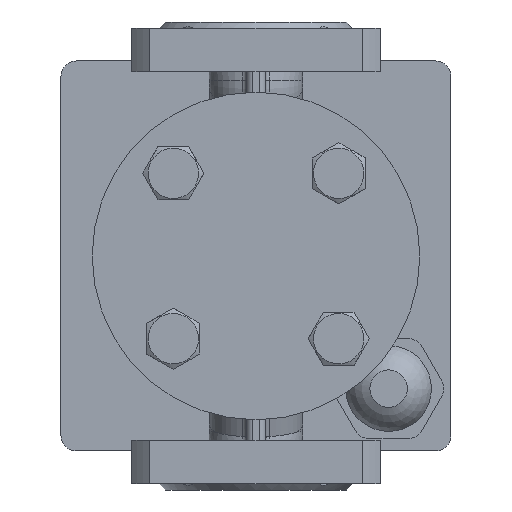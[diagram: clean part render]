
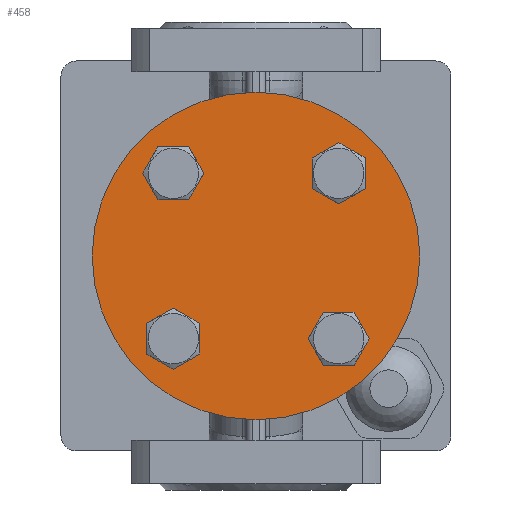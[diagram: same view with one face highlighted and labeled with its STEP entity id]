
A CAD part, front view. The second image highlights one B-rep face of the part: STEP entity #458.
In plain terms, the highlighted planar face has unit normal (0, -1, 0).
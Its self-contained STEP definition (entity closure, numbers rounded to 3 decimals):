
#458=ADVANCED_FACE('',(#9537,#9539,#9541,#9543,#9545),#9547,.F.);
#9537=FACE_BOUND('',#9538,.T.);
#9538=EDGE_LOOP('',(#23157));
#9539=FACE_BOUND('',#9540,.T.);
#9540=EDGE_LOOP('',(#23158,#23159,#23160,#23161,#23162,#23163));
#9541=FACE_BOUND('',#9542,.T.);
#9542=EDGE_LOOP('',(#23164,#23165,#23166,#23167,#23168,#23169));
#9543=FACE_BOUND('',#9544,.T.);
#9544=EDGE_LOOP('',(#23170,#23171,#23172,#23173,#23174,#23175));
#9545=FACE_BOUND('',#9546,.T.);
#9546=EDGE_LOOP('',(#23176,#23177,#23178,#23179,#23180,#23181));
#9547=PLANE('',#9548);
#9548=AXIS2_PLACEMENT_3D('',#9549,#9550,#9551);
#9549=CARTESIAN_POINT('',(0.,-92.,0.));
#9550=DIRECTION('',(0.,1.,0.));
#9551=DIRECTION('',(-1.,0.,0.));
#23157=ORIENTED_EDGE('',*,*,#30903,.F.);
#23158=ORIENTED_EDGE('',*,*,#30944,.F.);
#23159=ORIENTED_EDGE('',*,*,#30945,.F.);
#23160=ORIENTED_EDGE('',*,*,#30946,.F.);
#23161=ORIENTED_EDGE('',*,*,#30947,.F.);
#23162=ORIENTED_EDGE('',*,*,#30948,.F.);
#23163=ORIENTED_EDGE('',*,*,#30949,.F.);
#23164=ORIENTED_EDGE('',*,*,#30950,.F.);
#23165=ORIENTED_EDGE('',*,*,#30951,.F.);
#23166=ORIENTED_EDGE('',*,*,#30952,.F.);
#23167=ORIENTED_EDGE('',*,*,#30953,.F.);
#23168=ORIENTED_EDGE('',*,*,#30954,.F.);
#23169=ORIENTED_EDGE('',*,*,#30955,.F.);
#23170=ORIENTED_EDGE('',*,*,#30956,.F.);
#23171=ORIENTED_EDGE('',*,*,#30957,.F.);
#23172=ORIENTED_EDGE('',*,*,#30958,.F.);
#23173=ORIENTED_EDGE('',*,*,#30959,.F.);
#23174=ORIENTED_EDGE('',*,*,#30960,.F.);
#23175=ORIENTED_EDGE('',*,*,#30961,.F.);
#23176=ORIENTED_EDGE('',*,*,#30962,.F.);
#23177=ORIENTED_EDGE('',*,*,#30963,.F.);
#23178=ORIENTED_EDGE('',*,*,#30964,.F.);
#23179=ORIENTED_EDGE('',*,*,#30965,.F.);
#23180=ORIENTED_EDGE('',*,*,#30966,.F.);
#23181=ORIENTED_EDGE('',*,*,#30967,.F.);
#30903=EDGE_CURVE('',#34648,#34648,#34649,.T.);
#30944=EDGE_CURVE('',#34714,#34715,#34716,.F.);
#30945=EDGE_CURVE('',#34717,#34714,#34718,.F.);
#30946=EDGE_CURVE('',#34719,#34717,#34720,.F.);
#30947=EDGE_CURVE('',#34721,#34719,#34722,.F.);
#30948=EDGE_CURVE('',#34723,#34721,#34724,.F.);
#30949=EDGE_CURVE('',#34715,#34723,#34725,.F.);
#30950=EDGE_CURVE('',#34726,#34727,#34728,.F.);
#30951=EDGE_CURVE('',#34729,#34726,#34730,.F.);
#30952=EDGE_CURVE('',#34731,#34729,#34732,.F.);
#30953=EDGE_CURVE('',#34733,#34731,#34734,.F.);
#30954=EDGE_CURVE('',#34735,#34733,#34736,.F.);
#30955=EDGE_CURVE('',#34727,#34735,#34737,.F.);
#30956=EDGE_CURVE('',#34738,#34739,#34740,.F.);
#30957=EDGE_CURVE('',#34741,#34738,#34742,.F.);
#30958=EDGE_CURVE('',#34743,#34741,#34744,.F.);
#30959=EDGE_CURVE('',#34745,#34743,#34746,.F.);
#30960=EDGE_CURVE('',#34747,#34745,#34748,.F.);
#30961=EDGE_CURVE('',#34739,#34747,#34749,.F.);
#30962=EDGE_CURVE('',#34750,#34751,#34752,.F.);
#30963=EDGE_CURVE('',#34753,#34750,#34754,.F.);
#30964=EDGE_CURVE('',#34755,#34753,#34756,.F.);
#30965=EDGE_CURVE('',#34757,#34755,#34758,.F.);
#30966=EDGE_CURVE('',#34759,#34757,#34760,.F.);
#30967=EDGE_CURVE('',#34751,#34759,#34761,.F.);
#34648=VERTEX_POINT('',#41408);
#34649=CIRCLE('',#41409,52.5);
#34714=VERTEX_POINT('',#41575);
#34715=VERTEX_POINT('',#41576);
#34716=LINE('',#41577,#41578);
#34717=VERTEX_POINT('',#41580);
#34718=LINE('',#41581,#41582);
#34719=VERTEX_POINT('',#41584);
#34720=LINE('',#41585,#41586);
#34721=VERTEX_POINT('',#41588);
#34722=LINE('',#41589,#41590);
#34723=VERTEX_POINT('',#41592);
#34724=LINE('',#41593,#41594);
#34725=LINE('',#41596,#41597);
#34726=VERTEX_POINT('',#41599);
#34727=VERTEX_POINT('',#41600);
#34728=LINE('',#41601,#41602);
#34729=VERTEX_POINT('',#41604);
#34730=LINE('',#41605,#41606);
#34731=VERTEX_POINT('',#41608);
#34732=LINE('',#41609,#41610);
#34733=VERTEX_POINT('',#41612);
#34734=LINE('',#41613,#41614);
#34735=VERTEX_POINT('',#41616);
#34736=LINE('',#41617,#41618);
#34737=LINE('',#41620,#41621);
#34738=VERTEX_POINT('',#41623);
#34739=VERTEX_POINT('',#41624);
#34740=LINE('',#41625,#41626);
#34741=VERTEX_POINT('',#41628);
#34742=LINE('',#41629,#41630);
#34743=VERTEX_POINT('',#41632);
#34744=LINE('',#41633,#41634);
#34745=VERTEX_POINT('',#41636);
#34746=LINE('',#41637,#41638);
#34747=VERTEX_POINT('',#41640);
#34748=LINE('',#41641,#41642);
#34749=LINE('',#41644,#41645);
#34750=VERTEX_POINT('',#41647);
#34751=VERTEX_POINT('',#41648);
#34752=LINE('',#41649,#41650);
#34753=VERTEX_POINT('',#41652);
#34754=LINE('',#41653,#41654);
#34755=VERTEX_POINT('',#41656);
#34756=LINE('',#41657,#41658);
#34757=VERTEX_POINT('',#41660);
#34758=LINE('',#41661,#41662);
#34759=VERTEX_POINT('',#41664);
#34760=LINE('',#41665,#41666);
#34761=LINE('',#41668,#41669);
#41408=CARTESIAN_POINT('',(-52.5,-92.,0.));
#41409=AXIS2_PLACEMENT_3D('',#41410,#41411,#41412);
#41410=CARTESIAN_POINT('',(0.,-92.,0.));
#41411=DIRECTION('',(0.,1.,0.));
#41412=DIRECTION('',(-1.,0.,0.));
#41575=CARTESIAN_POINT('',(18.017,-92.,21.609));
#41576=CARTESIAN_POINT('',(26.517,-92.,16.702));
#41577=CARTESIAN_POINT('',(26.517,-92.,16.702));
#41578=VECTOR('',#41579,1.);
#41579=DIRECTION('',(-0.866,0.,0.5));
#41580=CARTESIAN_POINT('',(18.017,-92.,31.424));
#41581=CARTESIAN_POINT('',(18.017,-92.,21.609));
#41582=VECTOR('',#41583,1.);
#41583=DIRECTION('',(0.,0.,1.));
#41584=CARTESIAN_POINT('',(26.517,-92.,36.331));
#41585=CARTESIAN_POINT('',(18.017,-92.,31.424));
#41586=VECTOR('',#41587,1.);
#41587=DIRECTION('',(0.866,0.,0.5));
#41588=CARTESIAN_POINT('',(35.017,-92.,31.424));
#41589=CARTESIAN_POINT('',(26.517,-92.,36.331));
#41590=VECTOR('',#41591,1.);
#41591=DIRECTION('',(0.866,0.,-0.5));
#41592=CARTESIAN_POINT('',(35.017,-92.,21.609));
#41593=CARTESIAN_POINT('',(35.017,-92.,31.424));
#41594=VECTOR('',#41595,1.);
#41595=DIRECTION('',(0.,0.,-1.));
#41596=CARTESIAN_POINT('',(35.017,-92.,21.609));
#41597=VECTOR('',#41598,1.);
#41598=DIRECTION('',(-0.866,0.,-0.5));
#41599=CARTESIAN_POINT('',(21.609,-92.,-18.017));
#41600=CARTESIAN_POINT('',(16.702,-92.,-26.517));
#41601=CARTESIAN_POINT('',(16.702,-92.,-26.517));
#41602=VECTOR('',#41603,1.);
#41603=DIRECTION('',(0.5,0.,0.866));
#41604=CARTESIAN_POINT('',(31.424,-92.,-18.017));
#41605=CARTESIAN_POINT('',(21.609,-92.,-18.017));
#41606=VECTOR('',#41607,1.);
#41607=DIRECTION('',(1.,0.,0.));
#41608=CARTESIAN_POINT('',(36.331,-92.,-26.517));
#41609=CARTESIAN_POINT('',(31.424,-92.,-18.017));
#41610=VECTOR('',#41611,1.);
#41611=DIRECTION('',(0.5,0.,-0.866));
#41612=CARTESIAN_POINT('',(31.424,-92.,-35.017));
#41613=CARTESIAN_POINT('',(36.331,-92.,-26.517));
#41614=VECTOR('',#41615,1.);
#41615=DIRECTION('',(-0.5,0.,-0.866));
#41616=CARTESIAN_POINT('',(21.609,-92.,-35.017));
#41617=CARTESIAN_POINT('',(31.424,-92.,-35.017));
#41618=VECTOR('',#41619,1.);
#41619=DIRECTION('',(-1.,0.,0.));
#41620=CARTESIAN_POINT('',(21.609,-92.,-35.017));
#41621=VECTOR('',#41622,1.);
#41622=DIRECTION('',(-0.5,0.,0.866));
#41623=CARTESIAN_POINT('',(-18.017,-92.,-21.609));
#41624=CARTESIAN_POINT('',(-26.517,-92.,-16.702));
#41625=CARTESIAN_POINT('',(-26.517,-92.,-16.702));
#41626=VECTOR('',#41627,1.);
#41627=DIRECTION('',(0.866,0.,-0.5));
#41628=CARTESIAN_POINT('',(-18.017,-92.,-31.424));
#41629=CARTESIAN_POINT('',(-18.017,-92.,-21.609));
#41630=VECTOR('',#41631,1.);
#41631=DIRECTION('',(0.,0.,-1.));
#41632=CARTESIAN_POINT('',(-26.517,-92.,-36.331));
#41633=CARTESIAN_POINT('',(-18.017,-92.,-31.424));
#41634=VECTOR('',#41635,1.);
#41635=DIRECTION('',(-0.866,0.,-0.5));
#41636=CARTESIAN_POINT('',(-35.017,-92.,-31.424));
#41637=CARTESIAN_POINT('',(-26.517,-92.,-36.331));
#41638=VECTOR('',#41639,1.);
#41639=DIRECTION('',(-0.866,0.,0.5));
#41640=CARTESIAN_POINT('',(-35.017,-92.,-21.609));
#41641=CARTESIAN_POINT('',(-35.017,-92.,-31.424));
#41642=VECTOR('',#41643,1.);
#41643=DIRECTION('',(0.,0.,1.));
#41644=CARTESIAN_POINT('',(-35.017,-92.,-21.609));
#41645=VECTOR('',#41646,1.);
#41646=DIRECTION('',(0.866,0.,0.5));
#41647=CARTESIAN_POINT('',(-21.609,-92.,18.017));
#41648=CARTESIAN_POINT('',(-16.702,-92.,26.517));
#41649=CARTESIAN_POINT('',(-16.702,-92.,26.517));
#41650=VECTOR('',#41651,1.);
#41651=DIRECTION('',(-0.5,0.,-0.866));
#41652=CARTESIAN_POINT('',(-31.424,-92.,18.017));
#41653=CARTESIAN_POINT('',(-21.609,-92.,18.017));
#41654=VECTOR('',#41655,1.);
#41655=DIRECTION('',(-1.,0.,0.));
#41656=CARTESIAN_POINT('',(-36.331,-92.,26.517));
#41657=CARTESIAN_POINT('',(-31.424,-92.,18.017));
#41658=VECTOR('',#41659,1.);
#41659=DIRECTION('',(-0.5,0.,0.866));
#41660=CARTESIAN_POINT('',(-31.424,-92.,35.017));
#41661=CARTESIAN_POINT('',(-36.331,-92.,26.517));
#41662=VECTOR('',#41663,1.);
#41663=DIRECTION('',(0.5,0.,0.866));
#41664=CARTESIAN_POINT('',(-21.609,-92.,35.017));
#41665=CARTESIAN_POINT('',(-31.424,-92.,35.017));
#41666=VECTOR('',#41667,1.);
#41667=DIRECTION('',(1.,0.,0.));
#41668=CARTESIAN_POINT('',(-21.609,-92.,35.017));
#41669=VECTOR('',#41670,1.);
#41670=DIRECTION('',(0.5,0.,-0.866));
